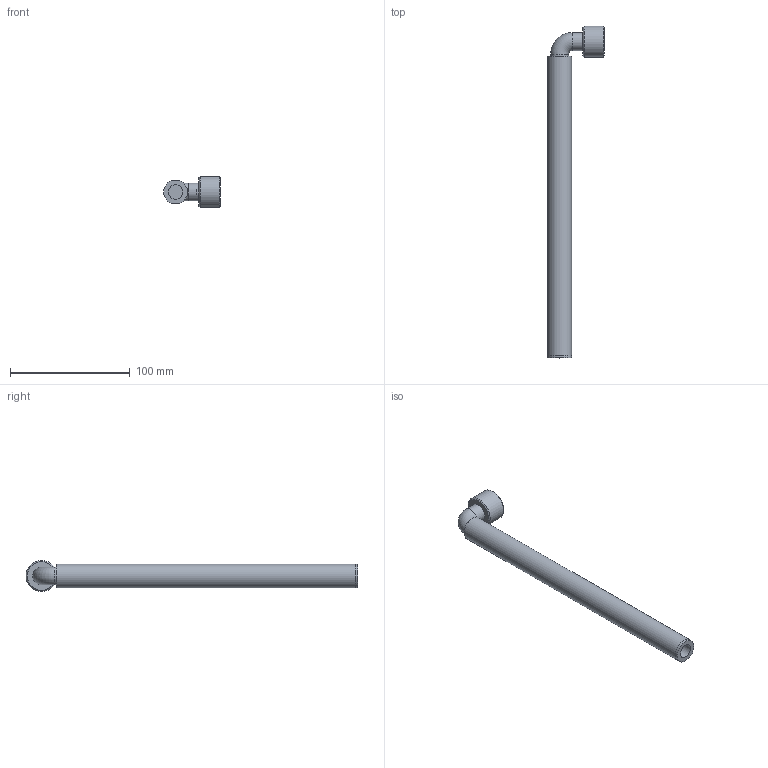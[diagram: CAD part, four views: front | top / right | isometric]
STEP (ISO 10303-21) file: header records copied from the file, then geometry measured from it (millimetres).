
FILE_DESCRIPTION( ( 'STEP AP203' ), '1' );
FILE_NAME( 'C:/Temp/Ganter_Step_05_03_2020/data/3_5/gn880_1/gn880_1_ans_abl/gn_880_1_c/Connector piece with drain hose GN 880.1-22-C-250-T.stp', '2020-03-12T13:42:32', ( 'License CC BY-ND 4.0' ), ( 'CADENAS' ), ' ', 'PARTsolutions', ' ' );
FILE_SCHEMA( ( 'CONFIG_CONTROL_DESIGN' ) );
Length unit declared in the file: millimetre
Products named in the file (5): Connector piece with drain hose GN 880.1-22-C-250-T; _Anschlussstueck mit Ablassschlauch GN 880.1-22-C-250-T_a; _Anschlussstueck mit Ablassschlauch GN 880.1-22-C-250-T_s; _Anschlussstueck mit Ablassschlauch GN 880.1-22-C-250-T_dk; _Anschlussstueck mit Ablassschlauch GN 880.1-22-C-250-T_dk2
Assembly tree (4 placements, depth 2):
  Connector piece with drain hose GN 880.1-22-C-250-T
    _Anschlussstueck mit Ablassschlauch GN 880.1-22-C-250-T_a
    _Anschlussstueck mit Ablassschlauch GN 880.1-22-C-250-T_s
    _Anschlussstueck mit Ablassschlauch GN 880.1-22-C-250-T_dk
    _Anschlussstueck mit Ablassschlauch GN 880.1-22-C-250-T_dk2
Bounding box: 47.5 x 277.5 x 26 mm (x, y, z)
Volume: 49121.5 mm3; surface area: 36818.7 mm2
Topology: 4 solids, 4 shells, 45 faces, 71 edges, 45 vertices
Faces by surface type: plane 19, cylinder 18, torus 5, cone 3
Full cylindrical faces by diameter (mm): 8.5 x1, 9.5 x1, 10.5 x2, 12 x1, 13 x2, 14 x2, 15 x4, 20 x3, 20.376 x1, 26 x1
Entity records: 1062 total; most frequent: DIRECTION 186, CARTESIAN_POINT 137, AXIS2_PLACEMENT_3D 93, EDGE_LOOP 86, ORIENTED_EDGE 86, FACE_OUTER_BOUND 68, ADVANCED_FACE 45, VERTEX_POINT 44
